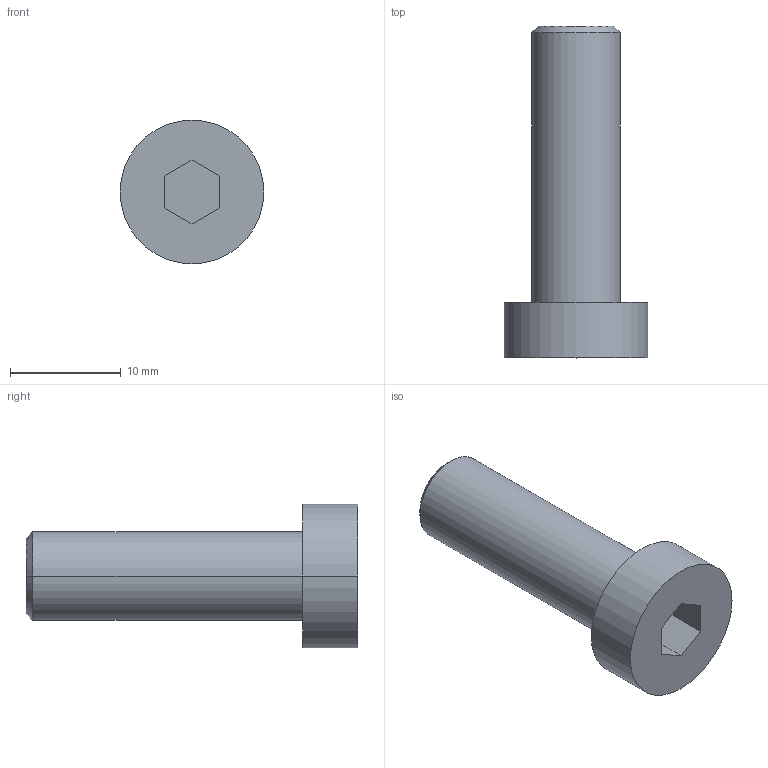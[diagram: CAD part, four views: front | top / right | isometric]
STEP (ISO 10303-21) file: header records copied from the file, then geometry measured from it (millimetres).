
FILE_DESCRIPTION((''),'2;1');
FILE_NAME('VTCEI0825','2002-12-27T',('Lipro doo'),('Lipro d.o.o.'),'PRO/ENGINEER BY PARAMETRIC TECHNOLOGY CORPORATION, 2001150','PRO/ENGINEER BY PARAMETRIC TECHNOLOGY CORPORATION, 2001150','');
FILE_SCHEMA(('CONFIG_CONTROL_DESIGN'));
Length unit declared in the file: millimetre
Products named in the file (1): VTCEI0825
Bounding box: 13 x 30 x 13 mm (x, y, z)
Volume: 1833.7 mm3; surface area: 1688.6 mm2
Topology: 1 solids, 2 shells, 18 faces, 40 edges, 26 vertices
Faces by surface type: plane 10, cylinder 6, cone 2
Entity records: 546 total; most frequent: DIRECTION 92, CARTESIAN_POINT 85, ORIENTED_EDGE 76, EDGE_CURVE 40, AXIS2_PLACEMENT_3D 33, VECTOR 26, LINE 26, VERTEX_POINT 26
